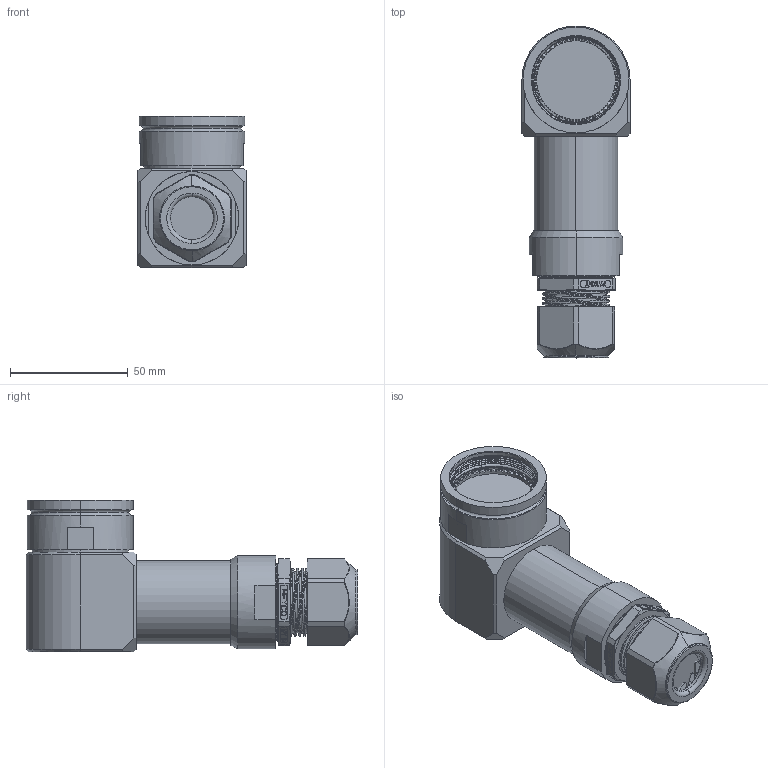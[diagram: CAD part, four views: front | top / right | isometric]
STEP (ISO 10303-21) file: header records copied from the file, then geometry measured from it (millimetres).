
FILE_DESCRIPTION (( 'STEP AP214' ), '1' );
FILE_NAME ('Q38EBSHELL-90X-25-XXXX-GL.STEP', '2025-09-25T17:49:15', ( '' ), ( '' ), 'SwSTEP 2.0', 'SolidWorks 2024', '' );
FILE_SCHEMA (( 'AUTOMOTIVE_DESIGN' ));
Length unit declared in the file: millimetre
Products named in the file (1): Q38EBSHELL-90X-25-XXXX-GL
Bounding box: 45.9 x 140.7 x 64.26 mm (x, y, z)
Surface area: 45922.4 mm2 (no closed solid volume)
Topology: 0 solids, 11 shells, 1440 faces, 3867 edges, 2503 vertices
Faces by surface type: plane 780, cylinder 251, bspline 145, cone 123, torus 121, sphere 20
Entity records: 67410 total; most frequent: CARTESIAN_POINT 38281, ORIENTED_EDGE 7685, EDGE_CURVE 3867, DIRECTION 3632, B_SPLINE_CURVE_WITH_KNOTS 2846, VERTEX_POINT 2503, AXIS2_PLACEMENT_3D 1627, EDGE_LOOP 1512
